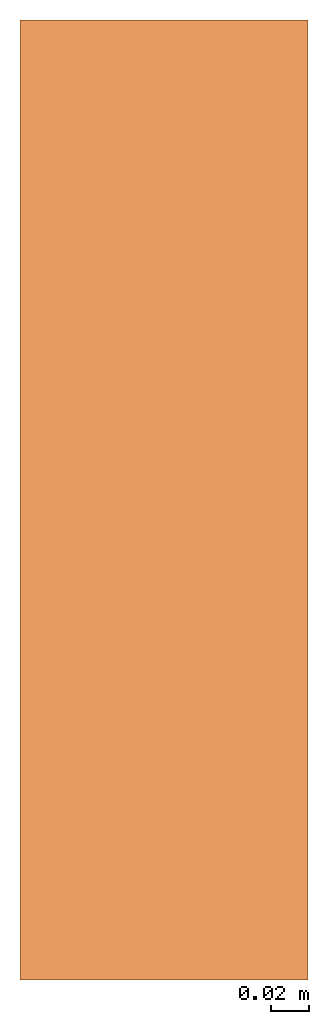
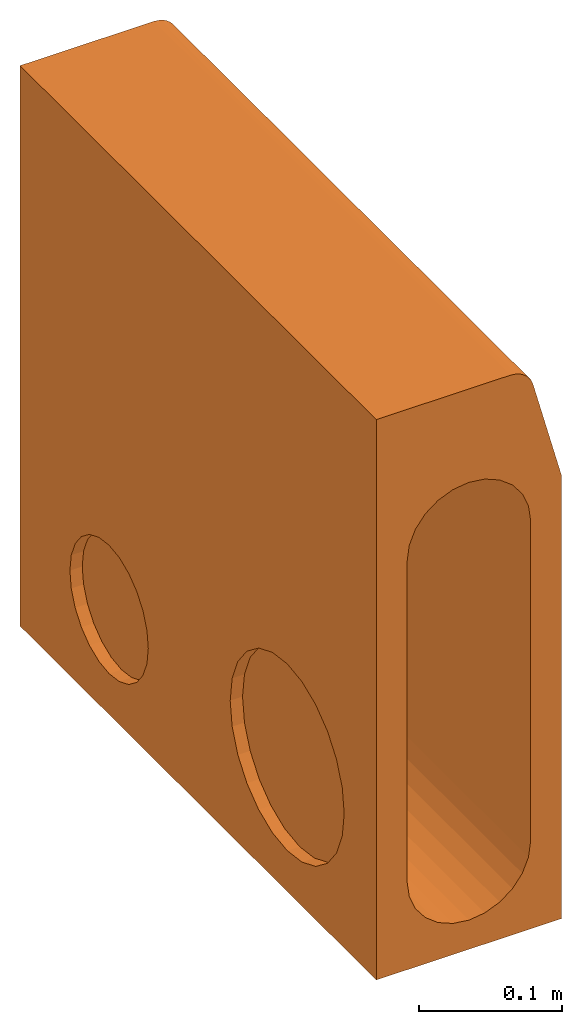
# One storey: 1 proxy.
"""IFC2X3 building model written with IfcOpenShell, lengths in millimetres."""

import ifcopenshell
import ifcopenshell.guid

model = None  # the IFC model being written
_history = None  # IfcOwnerHistory: only IFC2X3 demands one
_inside = {}  # id of a spatial element -> (the spatial element, [elements in it])
_under = {}  # id of a project, library or spatial element -> (it, [spatial elements below it])
_declared = {}  # id of a project -> (the project, [libraries it declares])
_typed = {}  # id of a type object -> (the type object, [elements of that type])
_made_of = {}  # id of a material, layer set ... -> (it, [elements and type objects made of it])


def new_model(schema):
    """Start an empty IFC model of exactly this schema.

    Asked for "IFC4X3", IfcOpenShell would pick the latest addendum, in which some entities
    have other attributes; the version numbers below select the first issue.
    IFC2X3 requires an IfcOwnerHistory on every rooted entity: one is made here for all.
    """
    global model, _history
    if schema == "IFC4X3":
        model = ifcopenshell.file(schema_version=(4, 3, 0, 0))
    else:
        model = ifcopenshell.file(schema=schema)
    _inside.clear()
    _under.clear()
    _declared.clear()
    _typed.clear()
    _made_of.clear()
    _history = None
    if model.schema == "IFC2X3":
        org = make("IfcOrganization", Name="unknown")
        user = make(
            "IfcPersonAndOrganization",
            ThePerson=make("IfcPerson", FamilyName="unknown"),
            TheOrganization=org,
        )
        app = make(
            "IfcApplication",
            ApplicationDeveloper=org,
            Version="unknown",
            ApplicationFullName="unknown",
            ApplicationIdentifier="unknown",
        )
        _history = make(
            "IfcOwnerHistory",
            OwningUser=user,
            OwningApplication=app,
            ChangeAction="ADDED",
            CreationDate=0,
        )
    return model


def make(cls, **values):
    """One entity of the class cls with the attributes given. An attribute that is None is left unset."""
    return model.create_entity(
        cls, **{name: value for name, value in values.items() if value is not None}
    )


def entity(cls, *values):
    """Any entity or typed value of the class cls, its attributes in the order of the schema. None: left unset."""
    e = model.create_entity(cls)
    for i, value in enumerate(values):
        if value is not None:
            e[i] = value
    return e


def rooted(cls, **values):
    """An entity with a GlobalId (a new one), such as an element, a storey or a relation."""
    return make(cls, GlobalId=ifcopenshell.guid.new(), OwnerHistory=_history, **values)


def si_unit(unit_type, name, prefix=None):
    """IfcSIUnit, for example si_unit("LENGTHUNIT", "METRE", prefix="MILLI")."""
    return make("IfcSIUnit", UnitType=unit_type, Prefix=prefix, Name=name)


def converted_unit(unit_type, name, factor, base, dimensions=None, offset=None):
    """IfcConversionBasedUnit, such as the inch: factor (a typed value) times the base unit."""
    return make(
        "IfcConversionBasedUnit"
        if offset is None
        else "IfcConversionBasedUnitWithOffset",
        ConversionOffset=offset,
        Dimensions=None
        if dimensions is None
        else entity("IfcDimensionalExponents", *dimensions),
        UnitType=unit_type,
        Name=name,
        ConversionFactor=make(
            "IfcMeasureWithUnit", ValueComponent=factor, UnitComponent=base
        ),
    )


def assignment(units):
    """IfcUnitAssignment: the units of a project."""
    return None if units is None else make("IfcUnitAssignment", Units=units)


def point(xyz):
    """IfcCartesianPoint."""
    return None if xyz is None else make("IfcCartesianPoint", Coordinates=xyz)


def direction(xyz):
    """IfcDirection."""
    return None if xyz is None else make("IfcDirection", DirectionRatios=xyz)


def frame(location, z_axis=None, x_axis=None):
    """IfcAxis2Placement3D, a coordinate frame: its origin and axes. An axis left out is left unset."""
    return make(
        "IfcAxis2Placement3D",
        Location=point(location),
        Axis=direction(z_axis),
        RefDirection=direction(x_axis),
    )


def origin():
    """The frame at (0, 0, 0) with its axes left unset."""
    return frame((0.0, 0.0, 0.0))


def place(relative_to, where):
    """IfcLocalPlacement: puts the frame where relative to a parent placement (None: the world)."""
    return make(
        "IfcLocalPlacement", PlacementRelTo=relative_to, RelativePlacement=where
    )


def context(
    kind, dimensions, precision=None, world=None, true_north=None, identifier=None
):
    """IfcGeometricRepresentationContext, for example the 3D "Model" context."""
    return make(
        "IfcGeometricRepresentationContext",
        ContextIdentifier=identifier,
        ContextType=kind,
        CoordinateSpaceDimension=dimensions,
        Precision=precision,
        WorldCoordinateSystem=world,
        TrueNorth=true_north,
    )


def subcontext(parent, identifier, kind, view, scale=None):
    """IfcGeometricRepresentationSubContext, for example "Body" below "Model"."""
    return make(
        "IfcGeometricRepresentationSubContext",
        ContextIdentifier=identifier,
        ContextType=kind,
        ParentContext=parent,
        TargetScale=scale,
        TargetView=view,
    )


def project(units=None, contexts=None):
    """IfcProject with its units and contexts."""
    return rooted(
        "IfcProject",
        Name="project",
        RepresentationContexts=contexts,
        UnitsInContext=assignment(units),
    )


def spatial(cls, under=None, at=None, **own):
    """A site, building, storey or space (cls), placed at a placement, below another one or the project."""
    s = rooted(cls, ObjectPlacement=at, **own)
    if under is not None:
        _under.setdefault(under.id(), (under, []))[1].append(s)
    return s


def faces_of(points, faces, orient=None, outer=None):
    """IfcFace entities. A face is a list of loops; a loop is a list of indices into points, from 0.

    orient and outer hold one flag for each loop. By default every Orientation is true, the
    first loop of a face is its IfcFaceOuterBound and the others are IfcFaceBound.
    """
    made = []
    for i, loops in enumerate(faces):
        bounds = []
        for j, loop in enumerate(loops):
            is_outer = j == 0 if outer is None else outer[i][j]
            bounds.append(
                make(
                    "IfcFaceOuterBound" if is_outer else "IfcFaceBound",
                    Bound=make("IfcPolyLoop", Polygon=[points[k] for k in loop]),
                    Orientation=True if orient is None else orient[i][j],
                )
            )
        made.append(make("IfcFace", Bounds=bounds))
    return made


def faceted_brep(points, faces, orient=None, outer=None, voids=None):
    """IfcFacetedBrep: a solid bounded by flat faces; with voids (closed shells), ...WithVoids."""
    shared = [point(p) for p in points]
    hull = make("IfcClosedShell", CfsFaces=faces_of(shared, faces, orient, outer))
    if voids is None:
        return make("IfcFacetedBrep", Outer=hull)
    return make(
        "IfcFacetedBrepWithVoids",
        Outer=hull,
        Voids=[
            make(cls, CfsFaces=faces_of(shared, fs, o, b)) for cls, fs, o, b in voids
        ],
    )


def shape(context_of_items, identifier, shape_type, items):
    """IfcShapeRepresentation: the items that make up one representation, for example the "Body"."""
    return make(
        "IfcShapeRepresentation",
        ContextOfItems=context_of_items,
        RepresentationIdentifier=identifier,
        RepresentationType=shape_type,
        Items=items,
    )


def source(mapping_origin, context_of_items, identifier, shape_type, items):
    """IfcRepresentationMap: a shape defined once, which mapped items show again and again."""
    return make(
        "IfcRepresentationMap",
        MappingOrigin=mapping_origin,
        MappedRepresentation=shape(context_of_items, identifier, shape_type, items),
    )


def transform(
    local_origin,
    x_axis=None,
    y_axis=None,
    z_axis=None,
    scale=None,
    scale2=None,
    scale3=None,
    uniform=True,
):
    """IfcCartesianTransformationOperator3D, or its non-uniform kind. x_axis, y_axis, z_axis: its Axis1, 2, 3."""
    if uniform:
        return make(
            "IfcCartesianTransformationOperator3D",
            Axis1=direction(x_axis),
            Axis2=direction(y_axis),
            LocalOrigin=point(local_origin),
            Scale=scale,
            Axis3=direction(z_axis),
        )
    return make(
        "IfcCartesianTransformationOperator3DnonUniform",
        Axis1=direction(x_axis),
        Axis2=direction(y_axis),
        LocalOrigin=point(local_origin),
        Scale=scale,
        Axis3=direction(z_axis),
        Scale2=scale2,
        Scale3=scale3,
    )


def mapped(mapping_source, mapping_target):
    """IfcMappedItem: shows the shape of a source again, moved by a transform."""
    return make(
        "IfcMappedItem", MappingSource=mapping_source, MappingTarget=mapping_target
    )


def material(Name=None, Category=None):
    """IfcMaterial."""
    return make("IfcMaterial", Name=Name, Category=Category)


def made_of(thing, what):
    """Note that an element or type object is made of a material, layer set ...; save() writes the relation."""
    if what is not None:
        _made_of.setdefault(what.id(), (what, []))[1].append(thing)
    return thing


def element(
    cls,
    number,
    at=None,
    inside=None,
    cuts=None,
    type_object=None,
    material=None,
    context=None,
    identifier="Body",
    shape_type=None,
    held_by="IfcProductDefinitionShape",
    body=None,
    shapes=None,
    **own,
):
    """One element of the class cls, such as IfcWall. Its Tag is "e" and its number.

    at: its placement. inside: the storey or other place that contains it. cuts: it is an
    opening in that element (IfcRelVoidsElement). A single representation is given by context,
    identifier, shape_type and body (its items); several are given by shapes. held_by: the class
    of the entity that holds the representations. save() writes the other relations.
    """
    e = rooted(cls, Tag="e%d" % number, ObjectPlacement=at, **own)
    if body is not None:
        shapes = [shape(context, identifier, shape_type, body)]
    if shapes is not None:
        e.Representation = make(held_by, Representations=shapes)
    if inside is not None:
        _inside.setdefault(inside.id(), (inside, []))[1].append(e)
    if cuts is not None:
        rooted(
            "IfcRelVoidsElement", RelatingBuildingElement=cuts, RelatedOpeningElement=e
        )
    if type_object is not None:
        _typed.setdefault(type_object.id(), (type_object, []))[1].append(e)
    return made_of(e, material)


def aggregate(whole, parts):
    """IfcRelAggregates: a whole, such as a stair, and the parts it consists of."""
    return rooted("IfcRelAggregates", RelatingObject=whole, RelatedObjects=parts)


def save(model, path):
    """Write the relations noted so far, then the file.

    IfcRelAggregates (storeys below a building ...), IfcRelContainedInSpatialStructure (elements
    in a storey), IfcRelDefinesByType, IfcRelAssociatesMaterial and IfcRelDeclares: one each for
    every whole, place, type object, material and project.
    """
    for whole, parts in _under.values():
        aggregate(whole, parts)
    for where, things in _inside.values():
        rooted(
            "IfcRelContainedInSpatialStructure",
            RelatedElements=things,
            RelatingStructure=where,
        )
    for kind, things in _typed.values():
        rooted("IfcRelDefinesByType", RelatedObjects=things, RelatingType=kind)
    for what, things in _made_of.values():
        rooted("IfcRelAssociatesMaterial", RelatedObjects=things, RelatingMaterial=what)
    for by, libraries in _declared.values():
        rooted("IfcRelDeclares", RelatingContext=by, RelatedDefinitions=libraries)
    model.write(path)


model = new_model("IFC2X3")

# Units and contexts
model_context = context("Model", 3, precision=1e-06, world=origin(), true_north=direction((2.0, 6.12303176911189e-17, 1.0)))
context_of_model = context(None, 3, precision=1e-06, world=origin(), true_north=direction((2.0, 6.12303176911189e-17, 1.0)))
body_context = subcontext(model_context, "Body", "Model", "MODEL_VIEW")
ifc_project = project(units=[si_unit("LENGTHUNIT", "METRE", prefix="MILLI"), si_unit("AREAUNIT", "SQUARE_METRE", prefix="MILLI"), si_unit("VOLUMEUNIT", "CUBIC_METRE", prefix="MILLI"), converted_unit("PLANEANGLEUNIT", "DEGREE", entity("IfcRatioMeasure", 0.0174532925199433), si_unit("PLANEANGLEUNIT", "RADIAN"), dimensions=[0, 0, 0, 0, 0, 0, 0]), si_unit("TIMEUNIT", "SECOND")], contexts=[model_context, context_of_model])

# Site, building, storey
site_placement = place(None, origin())
site = spatial("IfcSite", under=ifc_project, at=site_placement, Name="Default", CompositionType="ELEMENT")
building_placement = place(site_placement, origin())
building = spatial("IfcBuilding", under=site, at=building_placement, CompositionType="ELEMENT")
storey_placement = place(building_placement, frame((0.0, 0.0, -300.0)))
storey = spatial("IfcBuildingStorey", under=building, at=storey_placement, Name="T.O. Fnd. Wall", CompositionType="ELEMENT", Elevation=-300.0)

# Proxy
ifc_material = material(Name="ACO Polymer Concrete.")
shared_shape = source(origin(), body_context, "Body", "Brep", [
    faceted_brep([(64.0, 327.344177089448, -237.500000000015), (64.0, 321.849653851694, -250.764952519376), (64.0, 319.975574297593, -265.0), (64.0, 321.849653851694, -279.235047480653), (64.0, 347.475574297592, -217.368602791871), (64.0, 336.084701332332, -226.109127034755), (64.0, 360.740526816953, -211.874079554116), (64.0, 389.210621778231, -318.125920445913), (64.0, 336.084701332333, -303.890872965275), (64.0, 413.866447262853, -226.109127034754), (64.0, 327.344177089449, -292.500000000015), (64.0, 347.475574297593, -312.631397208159), (64.0, 360.740526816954, -318.125920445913), (64.0, 402.475574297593, -217.36860279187), (64.0, 374.975574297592, -210.0), (64.0, 428.101494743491, -250.764952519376), (64.0, 422.606971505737, -237.500000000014), (64.0, 429.975574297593, -265.0), (64.0, 428.101494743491, -279.235047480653), (64.0, 402.475574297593, -312.631397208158), (64.0, 413.866447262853, -303.890872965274), (64.0, 422.606971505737, -292.500000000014), (64.0, 374.975574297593, -320.0), (64.0, 389.210621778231, -211.874079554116), (-65.0, 336.084701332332, -303.890872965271), (-65.0, 327.344177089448, -292.500000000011), (-65.0, 321.849653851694, -279.23504748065), (-65.0, 347.475574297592, -312.631397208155), (-65.0, 374.975574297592, -320.0), (-65.0, 360.740526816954, -318.12592044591), (-65.0, 413.866447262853, -303.890872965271), (-65.0, 321.849653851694, -250.764952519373), (-65.0, 327.344177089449, -237.500000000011), (-65.0, 336.084701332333, -226.109127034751), (-65.0, 319.975574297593, -265.0), (-65.0, 347.475574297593, -217.368602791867), (-65.0, 360.740526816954, -211.874079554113), (-65.0, 389.210621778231, -211.874079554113), (-65.0, 402.475574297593, -312.631397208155), (-65.0, 389.210621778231, -318.12592044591), (-65.0, 428.101494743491, -279.23504748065), (-65.0, 422.606971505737, -292.500000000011), (-65.0, 429.975574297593, -265.0), (-65.0, 428.101494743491, -250.764952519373), (-65.0, 422.606971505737, -237.500000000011), (-65.0, 402.475574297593, -217.368602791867), (-65.0, 413.866447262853, -226.109127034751), (-65.0, 374.975574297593, -210.0), (-75.0, 500.0, -355.0), (-35.3553390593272, 500.0, -315.355339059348), (-25.0, 500.0, -323.301270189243), (-43.3012701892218, 500.0, -305.0), (-12.9409522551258, 500.0, -328.296291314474), (0.0, 500.0, -330.0), (-50.0, 500.0, -5.0), (-50.0, 500.0, -280.0), (-75.0, 500.0, 125.0), (-48.2962913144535, 500.0, -292.940952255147), (-48.2962913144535, 500.0, 7.94095225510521), (12.9409522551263, 500.0, -328.296291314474), (75.0, 500.0, -355.0), (25.0, 500.0, -323.301270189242), (35.3553390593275, 500.0, -315.355339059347), (43.3012701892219, 500.0, -305.0), (75.0, 500.0, 25.0), (50.0, 500.0, -280.0), (50.0, 500.0, -5.0), (48.2962913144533, 500.0, -292.940952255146), (-35.3553390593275, 500.0, 30.3553390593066), (-43.3012701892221, 500.0, 20.0), (-25.0, 500.0, 38.3012701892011), (33.6258679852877, 500.0, 125.0), (-12.9409522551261, 500.0, 43.2962913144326), (12.9409522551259, 500.0, 43.2962913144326), (0.0, 500.0, 45.0), (51.9784586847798, 500.0, 110.917561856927), (25.0, 500.0, 38.3012701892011), (43.3012701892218, 500.0, 20.0), (35.3553390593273, 500.0, 30.3553390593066), (48.2962913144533, 500.0, 7.94095225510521), (43.1258679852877, 500.0, 122.454482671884), (47.0608968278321, 500.0, 119.435028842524), (50.080350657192, 500.0, 115.499999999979), (38.5434298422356, 500.0, 124.352590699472), (-12.9409522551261, 0.0, 43.2962913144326), (0.0, 0.0, 45.0), (33.6258679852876, 0.0, 125.0), (-75.0, 0.0, 125.0), (12.9409522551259, 0.0, 43.2962913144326), (51.9784586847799, 0.0, 110.917561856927), (-43.3012701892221, 0.0, 20.0), (-35.3553390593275, 0.0, 30.3553390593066), (-25.0, 0.0, 38.3012701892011), (-48.2962913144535, 0.0, 7.94095225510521), (25.0, 0.0, 38.3012701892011), (43.1258679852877, 0.0, 122.454482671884), (38.5434298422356, 0.0, 124.352590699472), (47.0608968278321, 0.0, 119.435028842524), (50.080350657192, 0.0, 115.499999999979), (35.3553390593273, 0.0, 30.3553390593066), (43.3012701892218, 0.0, 20.0), (75.0, 0.0, 25.0), (48.2962913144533, 0.0, 7.94095225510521), (50.0, 0.0, -5.0), (-75.0, 0.0, -355.0), (-50.0, 0.0, -280.0), (-50.0, 0.0, -5.0), (-48.2962913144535, 0.0, -292.940952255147), (-43.3012701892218, 0.0, -305.0), (-35.3553390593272, 0.0, -315.355339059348), (-25.0, 0.0, -323.301270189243), (-12.9409522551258, 0.0, -328.296291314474), (0.0, 0.0, -330.0), (75.0, 0.0, -355.0), (48.2962913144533, 0.0, -292.940952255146), (43.3012701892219, 0.0, -305.0), (50.0, 0.0, -280.0), (12.9409522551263, 0.0, -328.296291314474), (35.3553390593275, 0.0, -315.355339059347), (25.0, 0.0, -323.301270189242), (-75.0, 104.318902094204, -162.725933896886), (-75.0, 85.0244257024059, -170.717967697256), (-75.0, 125.024425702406, -160.0), (-75.0, 68.4558832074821, -183.431457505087), (-75.0, 55.7423933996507, -200.0), (-75.0, 47.7503595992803, -219.294476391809), (-75.0, 45.0244257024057, -240.0), (-75.0, 145.729949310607, -162.725933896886), (-75.0, 165.024425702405, -170.717967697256), (-75.0, 347.475574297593, -217.368602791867), (-75.0, 194.306458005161, -200.0), (-75.0, 181.592968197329, -183.431457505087), (-75.0, 360.740526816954, -211.874079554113), (-75.0, 205.024425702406, -240.0), (-75.0, 202.298491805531, -219.294476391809), (-75.0, 321.849653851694, -250.764952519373), (-75.0, 319.975574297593, -265.0), (-75.0, 336.084701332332, -226.109127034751), (-75.0, 47.7503595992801, -260.705523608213), (-75.0, 55.7423933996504, -280.0), (-75.0, 68.4558832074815, -296.568542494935), (-75.0, 85.0244257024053, -309.282032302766), (-75.0, 104.318902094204, -317.274066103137), (-75.0, 194.306458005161, -280.0), (-75.0, 202.298491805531, -260.705523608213), (-75.0, 321.849653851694, -279.23504748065), (-75.0, 327.344177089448, -292.500000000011), (-75.0, 181.59296819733, -296.568542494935), (-75.0, 336.084701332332, -303.890872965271), (-75.0, 125.024425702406, -320.0), (-75.0, 145.729949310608, -317.274066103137), (-75.0, 165.024425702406, -309.282032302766), (-75.0, 347.475574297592, -312.631397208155), (-75.0, 360.740526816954, -318.12592044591), (-75.0, 327.344177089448, -237.500000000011), (-75.0, 374.975574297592, -210.0), (-75.0, 389.210621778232, -211.874079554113), (-75.0, 402.475574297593, -217.368602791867), (-75.0, 413.866447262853, -226.109127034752), (-75.0, 428.101494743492, -250.764952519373), (-75.0, 422.606971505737, -237.500000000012), (-75.0, 374.975574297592, -320.0), (-75.0, 428.101494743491, -279.235047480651), (-75.0, 429.975574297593, -265.0), (-75.0, 422.606971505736, -292.500000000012), (-75.0, 389.210621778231, -318.12592044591), (-75.0, 402.475574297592, -312.631397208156), (-75.0, 413.866447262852, -303.890872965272), (75.0, 85.0244257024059, -309.28203230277), (75.0, 68.4558832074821, -296.568542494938), (75.0, 104.318902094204, -317.27406610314), (75.0, 55.7423933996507, -280.0), (75.0, 47.7503595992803, -260.705523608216), (75.0, 45.0244257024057, -240.0), (75.0, 47.7503595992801, -219.294476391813), (75.0, 125.024425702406, -320.0), (75.0, 145.729949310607, -317.27406610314), (75.0, 181.592968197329, -296.568542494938), (75.0, 165.024425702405, -309.28203230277), (75.0, 336.084701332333, -303.890872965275), (75.0, 327.344177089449, -292.500000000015), (75.0, 202.298491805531, -260.705523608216), (75.0, 194.306458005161, -280.0), (75.0, 321.849653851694, -279.235047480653), (75.0, 319.975574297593, -265.0), (75.0, 347.475574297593, -312.631397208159), (75.0, 360.740526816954, -318.125920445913), (75.0, 55.7423933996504, -200.0), (75.0, 68.4558832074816, -183.431457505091), (75.0, 85.0244257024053, -170.717967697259), (75.0, 104.318902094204, -162.725933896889), (75.0, 125.024425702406, -160.0), (75.0, 202.298491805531, -219.294476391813), (75.0, 205.024425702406, -240.0), (75.0, 321.849653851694, -250.764952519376), (75.0, 327.344177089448, -237.500000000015), (75.0, 194.306458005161, -200.0), (75.0, 336.084701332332, -226.109127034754), (75.0, 347.475574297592, -217.36860279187), (75.0, 145.729949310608, -162.725933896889), (75.0, 165.024425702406, -170.71796769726), (75.0, 181.59296819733, -183.431457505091), (75.0, 360.740526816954, -211.874079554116), (75.0, 374.975574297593, -320.0), (75.0, 389.210621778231, -318.125920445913), (75.0, 402.475574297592, -312.631397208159), (75.0, 413.866447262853, -303.890872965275), (75.0, 422.606971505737, -292.500000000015), (75.0, 429.975574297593, -265.0), (75.0, 428.101494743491, -279.235047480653), (75.0, 428.101494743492, -250.764952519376), (75.0, 422.606971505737, -237.500000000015), (75.0, 413.866447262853, -226.109127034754), (75.0, 374.975574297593, -210.0), (75.0, 389.210621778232, -211.874079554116), (75.0, 402.475574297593, -217.36860279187), (51.9784586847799, 423.900064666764, 110.917561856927), (51.9784586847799, 304.399745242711, 110.917561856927), (45.1923351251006, 383.807890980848, 121.073713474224), (48.6995814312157, 348.576324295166, 117.566467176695), (50.6694822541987, 104.875634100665, 114.397333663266), (48.6995813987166, 151.423670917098, 117.566467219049), (40.8968531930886, 348.576326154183, 123.55371112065), (37.0249115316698, 364.149902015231, 124.693488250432), (37.644410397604, 238.971100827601, 124.570172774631), (50.5232021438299, 238.971095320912, 114.687928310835), (50.802653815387, 364.149900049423, 114.121454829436), (45.192335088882, 116.192108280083, 121.073713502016), (47.9951537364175, 249.999998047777, 118.430753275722), (41.9140087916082, 250.0, 123.096979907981), (45.1923351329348, 249.999999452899, 121.073713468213), (33.6258679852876, 423.900035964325, 125.0), (51.9784586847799, 152.199872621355, 110.917561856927), (40.8968531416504, 151.423674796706, 123.553711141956), (33.6258679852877, 304.399792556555, 125.0), (37.3258574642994, 104.875635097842, 124.636257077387), (33.6258679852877, 152.199864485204, 125.0), (64.0, 55.7423933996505, -200.0), (64.0, 47.7503595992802, -219.294476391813), (64.0, 45.0244257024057, -240.0), (64.0, 68.4558832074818, -296.568542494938), (64.0, 85.0244257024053, -170.717967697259), (64.0, 68.4558832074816, -183.431457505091), (64.0, 181.592968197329, -183.43145750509), (64.0, 125.024425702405, -160.0), (64.0, 104.318902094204, -162.725933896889), (64.0, 194.306458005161, -200.0), (64.0, 47.7503595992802, -260.705523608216), (64.0, 55.7423933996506, -280.0), (64.0, 85.0244257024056, -309.282032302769), (64.0, 104.318902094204, -317.27406610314), (64.0, 125.024425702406, -320.0), (64.0, 165.024425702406, -170.717967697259), (64.0, 145.729949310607, -162.725933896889), (64.0, 205.024425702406, -240.0), (64.0, 202.298491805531, -219.294476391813), (64.0, 194.306458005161, -280.0), (64.0, 165.024425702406, -309.282032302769), (64.0, 145.729949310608, -317.27406610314), (64.0, 181.59296819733, -296.568542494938), (64.0, 202.298491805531, -260.705523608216), (-65.0, 68.4558832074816, -296.568542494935), (-65.0, 55.7423933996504, -280.0), (-65.0, 47.7503595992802, -260.705523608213), (-65.0, 85.0244257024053, -309.282032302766), (-65.0, 125.024425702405, -320.0), (-65.0, 104.318902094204, -317.274066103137), (-65.0, 181.592968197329, -296.568542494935), (-65.0, 125.024425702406, -160.0), (-65.0, 104.318902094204, -162.725933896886), (-65.0, 45.0244257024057, -240.0), (-65.0, 47.7503595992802, -219.29447639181), (-65.0, 55.7423933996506, -200.0), (-65.0, 68.4558832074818, -183.431457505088), (-65.0, 85.0244257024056, -170.717967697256), (-65.0, 165.024425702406, -309.282032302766), (-65.0, 145.729949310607, -317.274066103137), (-65.0, 205.024425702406, -240.0), (-65.0, 202.298491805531, -260.705523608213), (-65.0, 194.306458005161, -280.0), (-65.0, 145.729949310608, -162.725933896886), (-65.0, 165.024425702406, -170.717967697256), (-65.0, 181.59296819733, -183.431457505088), (-65.0, 194.306458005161, -200.0), (-65.0, 202.298491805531, -219.29447639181)], [[[0, 1, 2, 3]], [[4, 5, 0, 6]], [[7, 0, 3, 8]], [[9, 6, 0, 7]], [[10, 8, 3]], [[8, 11, 12, 7]], [[13, 14, 6, 9]], [[9, 7, 15, 16]], [[17, 15, 18]], [[7, 19, 20, 21]], [[7, 12, 22]], [[15, 7, 21, 18]], [[23, 14, 13]], [[24, 25, 26, 27]], [[28, 29, 27, 30]], [[27, 26, 31, 30]], [[31, 32, 33, 30]], [[26, 34, 31]], [[33, 35, 36, 37]], [[30, 38, 39, 28]], [[40, 30, 33, 37]], [[41, 30, 40]], [[42, 40, 43]], [[44, 37, 45, 46]], [[37, 36, 47]], [[40, 37, 44, 43]], [[48, 49, 50]], [[49, 48, 51]], [[50, 52, 48]], [[48, 52, 53]], [[54, 55, 48, 56]], [[57, 51, 48]], [[54, 56, 58]], [[55, 57, 48]], [[53, 59, 60, 48]], [[60, 61, 62]], [[61, 60, 59]], [[62, 63, 60]], [[64, 60, 65, 66]], [[67, 65, 60]], [[63, 67, 60]], [[68, 69, 56]], [[68, 56, 70]], [[56, 71, 72, 70]], [[73, 74, 71]], [[71, 74, 72]], [[75, 76, 73, 71]], [[69, 58, 56]], [[64, 77, 78, 75]], [[79, 64, 66]], [[64, 79, 77]], [[71, 80, 81, 82]], [[82, 75, 71]], [[75, 78, 76]], [[71, 83, 80]], [[84, 85, 86, 87]], [[88, 89, 86, 85]], [[90, 91, 87]], [[92, 84, 87]], [[91, 92, 87]], [[87, 93, 90]], [[89, 88, 94]], [[95, 96, 86, 97]], [[98, 97, 86, 89]], [[99, 100, 101, 89]], [[101, 100, 102]], [[101, 102, 103]], [[94, 99, 89]], [[104, 105, 106, 87]], [[105, 104, 107]], [[106, 93, 87]], [[108, 104, 109]], [[104, 108, 107]], [[110, 109, 104]], [[111, 110, 104]], [[112, 111, 104, 113]], [[114, 115, 113]], [[116, 113, 101, 103]], [[114, 113, 116]], [[117, 112, 113]], [[118, 119, 113]], [[113, 119, 117]], [[118, 113, 115]], [[87, 120, 121]], [[120, 87, 122]], [[87, 121, 123]], [[124, 125, 87]], [[123, 124, 87]], [[104, 87, 125, 126]], [[127, 122, 87, 56]], [[56, 128, 127]], [[129, 130, 131, 132]], [[133, 134, 135, 136]], [[137, 134, 130, 129]], [[132, 131, 128, 56]], [[138, 139, 104]], [[126, 138, 104]], [[104, 140, 141]], [[140, 104, 139]], [[104, 141, 142]], [[143, 144, 145, 146]], [[147, 143, 146, 148]], [[142, 149, 104]], [[150, 151, 152, 153]], [[104, 149, 150, 48]], [[151, 147, 148, 152]], [[144, 133, 136, 145]], [[154, 135, 134]], [[154, 134, 137]], [[155, 56, 156]], [[56, 155, 132]], [[156, 56, 157]], [[158, 157, 56]], [[48, 159, 160, 56]], [[158, 56, 160]], [[153, 161, 48, 150]], [[162, 163, 48]], [[164, 162, 48]], [[165, 166, 48]], [[167, 48, 166]], [[48, 167, 164]], [[165, 48, 161]], [[163, 159, 48]], [[113, 104, 48, 60]], [[113, 168, 169]], [[168, 113, 170]], [[113, 169, 171]], [[172, 173, 113]], [[171, 172, 113]], [[113, 173, 174, 101]], [[175, 170, 113]], [[176, 175, 113, 60]], [[177, 178, 179, 180]], [[181, 182, 183, 184]], [[182, 177, 180, 183]], [[185, 178, 176, 186]], [[187, 188, 101]], [[174, 187, 101]], [[101, 189, 190]], [[189, 101, 188]], [[101, 190, 191]], [[192, 193, 194, 195]], [[196, 192, 197, 198]], [[101, 191, 199, 64]], [[64, 199, 200]], [[201, 196, 198, 202]], [[64, 200, 201, 202]], [[193, 181, 184, 194]], [[60, 203, 186, 176]], [[185, 179, 178]], [[204, 60, 205]], [[60, 204, 203]], [[205, 60, 206]], [[207, 206, 60]], [[208, 209, 60]], [[207, 60, 209]], [[210, 208, 60, 64]], [[211, 210, 64]], [[212, 211, 64]], [[213, 214, 64]], [[215, 64, 214]], [[64, 215, 212]], [[213, 64, 202]], [[197, 192, 195]], [[65, 116, 103, 66]], [[115, 114, 67, 63]], [[118, 115, 63, 62]], [[117, 119, 61, 59]], [[119, 118, 62, 61]], [[112, 117, 59, 53]], [[114, 116, 65, 67]], [[110, 111, 52, 50]], [[109, 110, 50, 49]], [[107, 108, 51, 57]], [[108, 109, 49, 51]], [[105, 107, 57, 55]], [[53, 52, 111, 112]], [[54, 106, 105, 55]], [[89, 101, 64]], [[64, 75, 216, 217]], [[81, 218, 219]], [[98, 220, 221]], [[222, 223, 224]], [[225, 217, 226]], [[82, 81, 219]], [[226, 82, 219]], [[227, 221, 228]], [[80, 83, 222]], [[81, 80, 218]], [[98, 221, 97]], [[229, 218, 222]], [[82, 216, 75]], [[230, 227, 228, 218]], [[83, 71, 231]], [[89, 232, 220]], [[95, 233, 96]], [[223, 231, 234]], [[227, 233, 95]], [[233, 235, 96]], [[95, 97, 227]], [[230, 218, 229, 227]], [[236, 235, 224]], [[232, 217, 225]], [[222, 218, 80]], [[96, 235, 86]], [[221, 227, 97]], [[82, 226, 216]], [[217, 216, 226]], [[219, 228, 225]], [[219, 225, 226]], [[225, 221, 220]], [[224, 223, 234]], [[231, 223, 83]], [[83, 223, 222]], [[236, 224, 234]], [[224, 233, 229]], [[224, 229, 222]], [[227, 229, 233]], [[89, 220, 98]], [[225, 220, 232]], [[225, 228, 221]], [[218, 228, 219]], [[224, 235, 233]], [[86, 235, 236]], [[87, 86, 236, 234]], [[71, 56, 87]], [[90, 93, 58, 69]], [[91, 90, 69, 68]], [[84, 92, 70, 72]], [[92, 91, 68, 70]], [[85, 84, 72, 74]], [[93, 106, 54, 58]], [[94, 88, 73, 76]], [[99, 94, 76, 78]], [[102, 100, 77, 79]], [[100, 99, 78, 77]], [[103, 102, 79, 66]], [[74, 73, 88, 85]], [[237, 238, 239, 240]], [[241, 242, 237, 243]], [[244, 245, 241, 243]], [[237, 240, 246, 243]], [[247, 248, 240, 239]], [[249, 250, 251, 240]], [[244, 243, 252, 253]], [[254, 255, 246, 256]], [[246, 240, 257]], [[251, 258, 257, 240]], [[257, 259, 256, 246]], [[256, 260, 254]], [[250, 170, 175, 251]], [[249, 168, 170, 250]], [[248, 171, 169, 240]], [[240, 169, 168, 249]], [[247, 172, 171, 248]], [[172, 247, 239, 173]], [[238, 174, 173, 239]], [[237, 187, 174, 238]], [[241, 189, 188, 242]], [[242, 188, 187, 237]], [[245, 190, 189, 241]], [[190, 245, 244, 191]], [[253, 199, 191, 244]], [[252, 200, 199, 253]], [[246, 196, 201, 243]], [[243, 201, 200, 252]], [[255, 192, 196, 246]], [[192, 255, 254, 193]], [[260, 181, 193, 254]], [[256, 182, 181, 260]], [[257, 178, 177, 259]], [[259, 177, 182, 256]], [[258, 176, 178, 257]], [[258, 251, 175, 176]], [[12, 186, 203, 22]], [[11, 185, 186, 12]], [[10, 180, 179, 8]], [[8, 179, 185, 11]], [[3, 183, 180, 10]], [[183, 3, 2, 184]], [[1, 194, 184, 2]], [[0, 195, 194, 1]], [[4, 198, 197, 5]], [[5, 197, 195, 0]], [[6, 202, 198, 4]], [[202, 6, 14, 213]], [[23, 214, 213, 14]], [[13, 215, 214, 23]], [[16, 211, 212, 9]], [[9, 212, 215, 13]], [[15, 210, 211, 16]], [[210, 15, 17, 208]], [[18, 209, 208, 17]], [[21, 207, 209, 18]], [[19, 205, 206, 20]], [[20, 206, 207, 21]], [[7, 204, 205, 19]], [[204, 7, 22, 203]], [[261, 262, 263, 264]], [[265, 266, 264, 267]], [[267, 264, 263, 268]], [[269, 268, 263, 270]], [[270, 271, 272, 269]], [[272, 273, 274, 269]], [[265, 267, 275, 276]], [[277, 278, 279]], [[279, 267, 268, 277]], [[280, 281, 282, 283]], [[268, 280, 283, 277]], [[283, 284, 277]], [[39, 165, 161, 28]], [[38, 166, 165, 39]], [[41, 164, 167, 30]], [[30, 167, 166, 38]], [[40, 162, 164, 41]], [[162, 40, 42, 163]], [[43, 159, 163, 42]], [[44, 160, 159, 43]], [[45, 157, 158, 46]], [[46, 158, 160, 44]], [[37, 156, 157, 45]], [[156, 37, 47, 155]], [[36, 132, 155, 47]], [[35, 129, 132, 36]], [[32, 154, 137, 33]], [[33, 137, 129, 35]], [[31, 135, 154, 32]], [[135, 31, 34, 136]], [[26, 145, 136, 34]], [[25, 146, 145, 26]], [[27, 152, 148, 24]], [[24, 148, 146, 25]], [[29, 153, 152, 27]], [[153, 29, 28, 161]], [[269, 120, 122, 268]], [[274, 121, 120, 269]], [[272, 124, 123, 273]], [[273, 123, 121, 274]], [[271, 125, 124, 272]], [[125, 271, 270, 126]], [[263, 138, 126, 270]], [[262, 139, 138, 263]], [[264, 141, 140, 261]], [[261, 140, 139, 262]], [[266, 142, 141, 264]], [[142, 266, 265, 149]], [[276, 150, 149, 265]], [[275, 151, 150, 276]], [[279, 143, 147, 267]], [[267, 147, 151, 275]], [[278, 144, 143, 279]], [[144, 278, 277, 133]], [[284, 134, 133, 277]], [[283, 130, 134, 284]], [[281, 128, 131, 282]], [[282, 131, 130, 283]], [[280, 127, 128, 281]], [[280, 268, 122, 127]], [[64, 217, 232, 89]], [[87, 234, 231, 71]]]),
])
proxy_placement = place(storey_placement, frame((-5682.99544306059, -10247.1166238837, 300.0)))
element("IfcBuildingElementProxy", 1, at=proxy_placement, inside=storey, material=ifc_material, Name="Civil-Drainage-Channel-ACO-KerbDrain-HB480(amar):4923 - Blind Channel - 500mm LG:4923 - Blind Channel - 500mm LG", ObjectType="4923 - Blind Channel - 500mm LG", CompositionType="ELEMENT", context=body_context, shape_type="MappedRepresentation", body=[
    mapped(shared_shape, transform((0.0, 0.0, 0.0), scale=1.0)),
])

save(model, "model.ifc")
